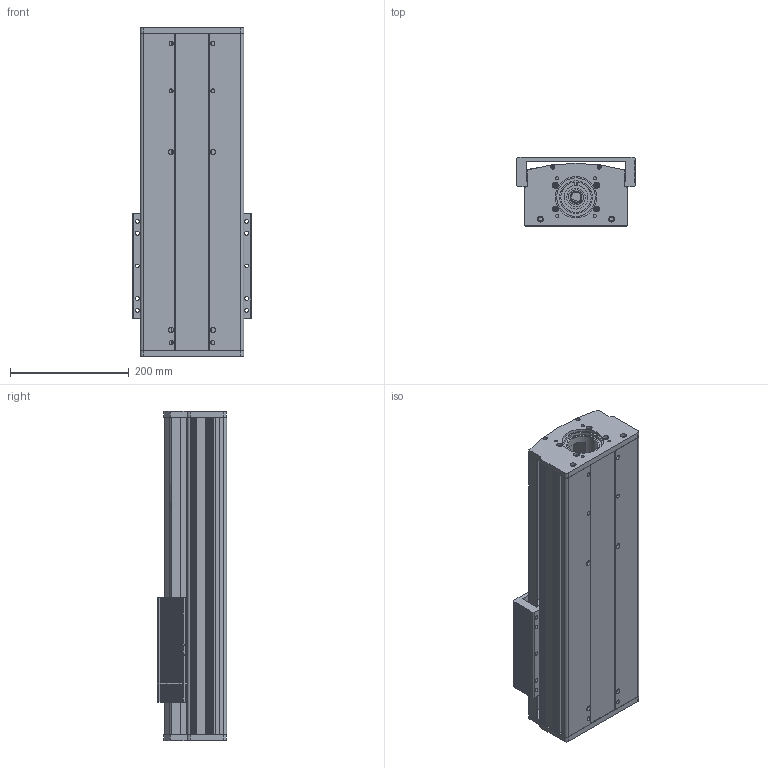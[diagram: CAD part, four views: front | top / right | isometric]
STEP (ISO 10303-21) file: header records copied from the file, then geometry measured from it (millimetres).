
FILE_DESCRIPTION (( 'STEP AP203' ), '1' );
FILE_NAME ('CF175-2-P200.STEP', '2016-03-11T05:40:44', ( 'Sky123.Org' ), ( 'Sky123.Org' ), 'SwSTEP 2.0', 'SolidWorks 2015', '' );
FILE_SCHEMA (( 'CONFIG_CONTROL_DESIGN' ));
Length unit declared in the file: millimetre
Products named in the file (13): 175-2盓傅釱; CF175-2蹟譫釱; Y1-CF175-2-P1200-1547裔啣; Y1-CF175-2-P1200-1547臏倰第; CF-HGH20CA賑輸; Y1-HGR20-1500絳寢; SFU2505-4; CF175-2賑雄啣; 175-2梓袧嘐隅釱; X1-SFS2525-1185; 175-2侜督80萇儂釱; 175-2耜啣; CF175-2-P200
Assembly tree (16 placements, depth 2):
  CF175-2-P200
    CF-HGH20CA賑輸  x4
    SFU2505-4
    X1-SFS2525-1185
    175-2耜啣
    175-2盓傅釱
    CF175-2蹟譫釱
    Y1-CF175-2-P1200-1547裔啣
    Y1-CF175-2-P1200-1547臏倰第
    Y1-HGR20-1500絳寢  x2
    CF175-2賑雄啣
    175-2梓袧嘐隅釱
    175-2侜督80萇儂釱
Bounding box: 200 x 116.8 x 555 mm (x, y, z)
Volume: 5672112.2 mm3; surface area: 1482947 mm2
Topology: 22 solids, 22 shells, 1360 faces, 3615 edges, 2394 vertices
Faces by surface type: cylinder 695, plane 641, cone 20, bspline 4
Entity records: 40950 total; most frequent: CARTESIAN_POINT 11129, DIRECTION 6126, ORIENTED_EDGE 5772, EDGE_CURVE 2886, AXIS2_PLACEMENT_3D 2274, VERTEX_POINT 1910, LINE 1578, VECTOR 1578
